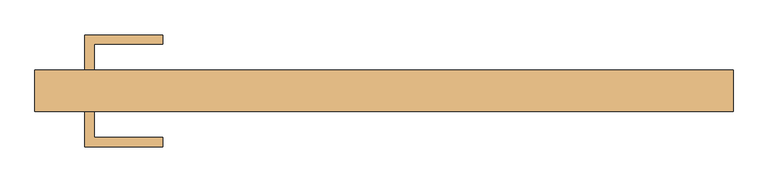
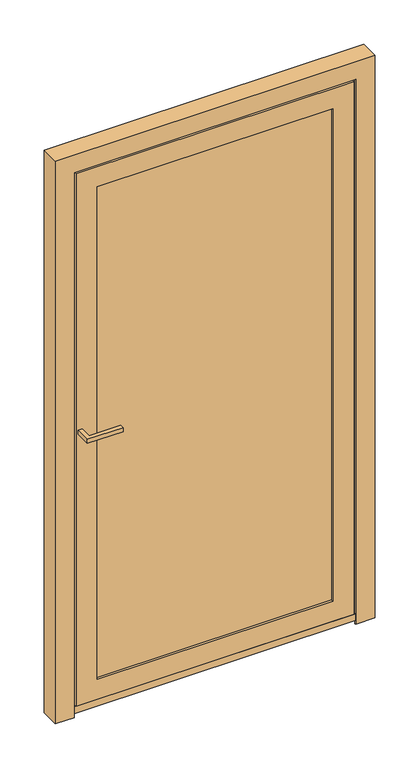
"""IFC4 building model written with IfcOpenShell, lengths in millimetres: door geometry, Reynaers_CS 77_Door_Miter_Inward Opening_Single Vent : Reynaers_CS 77_Door_Miter_Inward Opening_Single Vent."""

from ifc_helpers import new_model, si_unit, frame, origin, place, context, project, spatial, polyline, outline, extrude, faceted_brep, source, transform, mapped, element, save


def door_e52979b4(model_context):
    return source(origin(), model_context, "Body", "SolidModel", [
        extrude(outline(polyline([(-488.5, -80.0), (-473.5, -80.0), (-473.5, -122.5), (-361.0, -122.5), (-361.0, -137.5), (-488.5, -137.5), (-488.5, -80.0)])), frame((0.0, 0.0, 1062.5), z_axis=(0.0, 0.0, 1.0), x_axis=(1.0, 0.0, 0.0)), (0.0, 0.0, 1.0), 15.0),
        extrude(outline(polyline([(-488.5, -12.0), (-488.5, 45.5), (-361.0, 45.5), (-361.0, 30.5), (-473.5, 30.5), (-473.5, -12.0), (-488.5, -12.0)])), frame((0.0, 0.0, 1062.5), z_axis=(0.0, 0.0, 1.0), x_axis=(1.0, 0.0, 0.0)), (0.0, 0.0, 1.0), 15.0),
        extrude(outline(polyline([(439.0, -45.0), (439.0, -72.0), (-439.0, -72.0), (-439.0, -45.0), (439.0, -45.0)])), frame((0.0, 0.0, 97.0), z_axis=(0.0, 0.0, 1.0), x_axis=(1.0, 0.0, 0.0)), (0.0, 0.0, 1.0), 1892.0),
        faceted_brep([(445.0, -12.0, 1995.0), (445.0, -12.0, 91.0), (445.0, -72.0, 91.0), (445.0, -72.0, 1995.0), (-445.0, -72.0, 1995.0), (-445.0, -72.0, 91.0), (420.0, -72.0, 1970.0), (-420.0, -72.0, 1970.0), (-420.0, -72.0, 116.0), (420.0, -72.0, 116.0), (-445.0, -12.0, 91.0), (-522.0, -12.0, 2072.0), (522.0, -12.0, 2072.0), (522.0, -12.0, 14.0), (-522.0, -12.0, 14.0), (-445.0, -12.0, 1995.0), (522.0, -16.0, 2072.0), (522.0, -16.0, 14.0), (-522.0, -16.0, 14.0), (-522.0, -16.0, 2072.0), (-507.0, -16.0, 2057.0), (507.0, -16.0, 2057.0), (507.0, -16.0, 29.0), (-507.0, -16.0, 29.0), (-507.0, -70.2, 29.0), (-507.0, -70.2, 2057.0), (507.0, -70.2, 29.0), (507.0, -70.2, 2057.0), (-496.0, -70.2, 2046.0), (496.0, -70.2, 2046.0), (496.0, -70.2, 40.0), (-496.0, -70.2, 40.0), (496.0, -80.0, 2046.0), (496.0, -80.0, 40.0), (-496.0, -80.0, 40.0), (-496.0, -80.0, 2046.0), (-420.0, -80.0, 1970.0), (420.0, -80.0, 1970.0), (420.0, -80.0, 116.0), (-420.0, -80.0, 116.0)], [[[0, 1, 2, 3]], [[4, 3, 2, 5], [6, 7, 8, 9]], [[1, 10, 5, 2]], [[11, 12, 13, 14], [0, 15, 10, 1]], [[16, 17, 13, 12]], [[17, 18, 14, 13]], [[16, 19, 18, 17], [20, 21, 22, 23]], [[10, 15, 4, 5]], [[18, 19, 11, 14]], [[24, 25, 20, 23]], [[26, 24, 23, 22]], [[27, 26, 22, 21]], [[27, 25, 24, 26], [28, 29, 30, 31]], [[32, 33, 30, 29]], [[33, 34, 31, 30]], [[32, 35, 34, 33], [36, 37, 38, 39]], [[6, 9, 38, 37]], [[9, 8, 39, 38]], [[34, 35, 28, 31]], [[8, 7, 36, 39]], [[15, 0, 3, 4]], [[19, 16, 12, 11]], [[25, 27, 21, 20]], [[35, 32, 29, 28]], [[7, 6, 37, 36]]]),
        faceted_brep([(420.0, -12.0, 1970.0), (420.0, -12.0, 116.0), (420.0, -45.0, 116.0), (420.0, -45.0, 1970.0), (444.0, -45.0, 1994.0), (-444.0, -45.0, 1994.0), (-444.0, -45.0, 92.0), (444.0, -45.0, 92.0), (-420.0, -45.0, 1970.0), (-420.0, -45.0, 116.0), (-420.0, -12.0, 116.0), (-444.0, -12.0, 1994.0), (444.0, -12.0, 1994.0), (444.0, -12.0, 92.0), (-444.0, -12.0, 92.0), (-420.0, -12.0, 1970.0)], [[[0, 1, 2, 3]], [[4, 5, 6, 7], [8, 3, 2, 9]], [[1, 10, 9, 2]], [[11, 12, 13, 14], [0, 15, 10, 1]], [[4, 7, 13, 12]], [[7, 6, 14, 13]], [[10, 15, 8, 9]], [[6, 5, 11, 14]], [[15, 0, 3, 8]], [[5, 4, 12, 11]]]),
        faceted_brep([(-502.0, -76.2, 0.0), (-502.0, -80.0, 0.0), (-570.0, -80.0, 0.0), (-570.0, -12.0, 0.0), (-528.0, -12.0, 0.0), (-528.0, -21.8, 0.0), (-517.0, -21.8, 0.0), (-517.0, -76.2, 0.0), (-517.0, -76.2, 2067.0), (517.0, -76.2, 2067.0), (517.0, -76.2, 0.0), (502.0, -76.2, 0.0), (502.0, -76.2, 2052.0), (-502.0, -76.2, 2052.0), (-517.0, -21.8, 2067.0), (-528.0, -21.8, 2078.0), (528.0, -21.8, 2078.0), (528.0, -21.8, 0.0), (517.0, -21.8, 0.0), (517.0, -21.8, 2067.0), (-528.0, -12.0, 2078.0), (-570.0, -12.0, 2120.0), (570.0, -12.0, 2120.0), (570.0, -12.0, 0.0), (528.0, -12.0, 0.0), (528.0, -12.0, 2078.0), (-570.0, -80.0, 2120.0), (-502.0, -80.0, 2052.0), (502.0, -80.0, 2052.0), (502.0, -80.0, 0.0), (570.0, -80.0, 0.0), (570.0, -80.0, 2120.0)], [[[0, 1, 2, 3, 4, 5, 6, 7]], [[7, 8, 9, 10, 11, 12, 13, 0]], [[6, 14, 8, 7]], [[5, 15, 16, 17, 18, 19, 14, 6]], [[4, 20, 15, 5]], [[3, 21, 22, 23, 24, 25, 20, 4]], [[2, 26, 21, 3]], [[1, 27, 28, 29, 30, 31, 26, 2]], [[0, 13, 27, 1]], [[12, 11, 29, 28]], [[11, 10, 18, 17, 24, 23, 30, 29]], [[19, 18, 10, 9]], [[31, 30, 23, 22]], [[25, 24, 17, 16]], [[26, 31, 22, 21]], [[13, 12, 28, 27]], [[14, 19, 9, 8]], [[20, 25, 16, 15]]]),
        extrude(outline(polyline([(-570.0, -30.0), (570.0, -30.0), (570.0, -45.0), (-570.0, -45.0), (-570.0, -30.0)])), frame((0.0, 0.0, 1.0), z_axis=(0.0, 0.0, 1.0), x_axis=(1.0, 0.0, 0.0)), (0.0, 0.0, 1.0), 28.0),
        extrude(outline(polyline([(502.0, -80.0), (-502.0, -80.0), (-502.0, -76.2), (502.0, -76.2), (502.0, -80.0)])), frame((0.0, 0.0, 14.0), z_axis=(0.0, 0.0, 1.0), x_axis=(1.0, 0.0, 0.0)), (0.0, 0.0, 1.0), 26.0),
    ])


if __name__ == "__main__":
    model = new_model("IFC4")
    model_context = context("Model", 3, world=origin())
    ifc_project = project(units=[si_unit("LENGTHUNIT", "METRE", prefix="MILLI")], contexts=[model_context])
    site = spatial("IfcSite", under=ifc_project)
    building = spatial("IfcBuilding", under=site)
    placement = place(None, origin())
    door_shape = door_e52979b4(model_context)
    element("IfcDoor", 1, ObjectType="Reynaers_CS 77_Door_Miter_Inward Opening_Single Vent : Reynaers_CS 77_Door_Miter_Inward Opening_Single Vent", at=placement, inside=building, context=model_context, shape_type="MappedRepresentation", body=[
        mapped(door_shape, transform((0.0, 0.0, 0.0), x_axis=(1.0, 0.0, 0.0), y_axis=(0.0, 1.0, 0.0), z_axis=(0.0, 0.0, 1.0))),
    ])
    save(model, "model.ifc")
